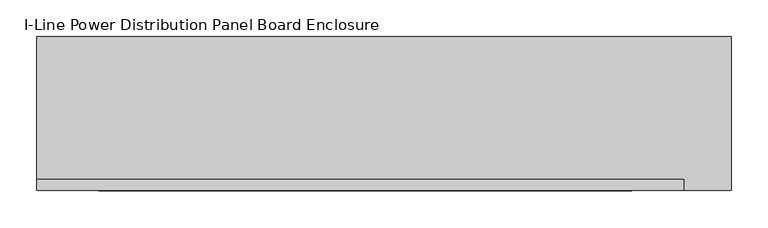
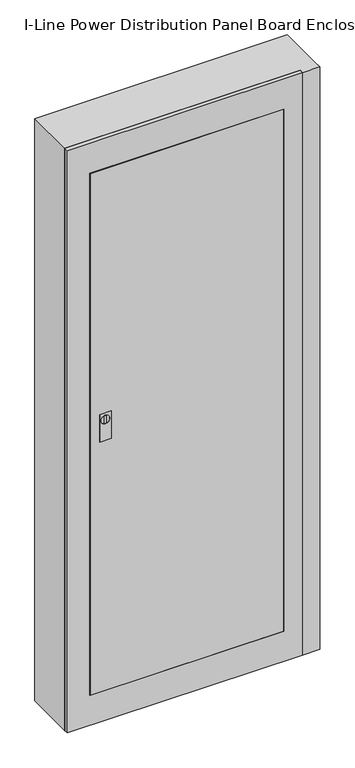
"""IFC4 building model written with IfcOpenShell, lengths in millimetres: proxy geometry, I-Line_Power_Distribution_Panel_Board_Enclosure_MDP-100_BIM_Model : I-Line Power Distribution Panel Board Enclosure."""

from ifc_helpers import new_model, si_unit, point, frame, frame_2d, origin, origin_with_axes, place, context, project, spatial, polyline, circle_curve, trimmed, segment, composite_curve, outline, extrude, source, transform, mapped, element, save


def i_line_power_distribution_panel_board_enclosure_bd4550be(model_context):
    return source(origin(), model_context, "Body", "SweptSolid", [
        extrude(outline(polyline([(29.9355959, 20.4466569), (29.9355959, -19.5533431), (-30.0644041, -19.5533431), (-30.0644041, 20.4466569), (29.9355959, 20.4466569)])), frame((0.0, 0.0, 2309.0), z_axis=(0.0, 0.0, 1.0), x_axis=(1.0, 0.0, 0.0)), (0.0, 0.0, 1.0), 1.0),
        extrude(outline(polyline([(1220.9933328, -309.120244), (1220.9933328, -353.1115289), (1112.0, -353.1115289), (1112.0, -309.120244), (1220.9933328, -309.120244)]), holes=[composite_curve([segment(trimmed(circle_curve(frame_2d((1194.7298791, -331.1240938)), 16.4146586), [point((1194.7298791, -347.5387523))], [point((1194.7298791, -314.7094352))], True, "CARTESIAN"), True, "CONTINUOUS"), segment(trimmed(circle_curve(frame_2d((1194.7298791, -331.1240938)), 16.4146586), [point((1194.7298791, -314.7094352))], [point((1194.7298791, -347.5387523))], True, "CARTESIAN"), True, "CONTINUOUS")], self_intersect=False)]), frame((0.0, -106.0, 0.0), z_axis=(0.0, 1.0, 0.0), x_axis=(0.0, 0.0, 1.0)), (0.0, 0.0, 1.0), 1.0),
        extrude(outline(composite_curve([segment(polyline([(1209.9614329, -335.0636118), (1179.4669633, -335.0636118)]), True, "CONTINUOUS"), segment(trimmed(circle_curve(frame_2d((1213.1619767, -331.1240938)), 33.9245299), [point((1179.4669633, -335.0636118))], [point((1179.4669633, -327.1845757))], False, "CARTESIAN"), True, "CONTINUOUS"), segment(polyline([(1179.4669633, -327.1845757), (1209.9614329, -327.1845757)]), True, "CONTINUOUS"), segment(trimmed(circle_curve(frame_2d((1194.1423953, -331.1240938)), 16.3022009), [point((1209.9614329, -327.1845757))], [point((1209.9614329, -335.0636118))], False, "CARTESIAN"), True, "CONTINUOUS")], self_intersect=False)), frame((0.0, -106.0, 0.0), z_axis=(0.0, 1.0, 0.0), x_axis=(0.0, 0.0, 1.0)), (0.0, 0.0, 1.0), 1.0),
        extrude(outline(polyline([(2311.0, 409.0), (2311.0, -474.0), (0.0, -474.0), (0.0, 409.0), (2311.0, 409.0)]), holes=[polyline([(2191.0, 338.0), (120.0, 338.0), (120.0, -389.0), (2191.0, -389.0), (2191.0, 338.0)])]), frame((0.0, -105.0, 0.0), z_axis=(0.0, 1.0, 0.0), x_axis=(0.0, 0.0, 1.0)), (0.0, 0.0, 1.0), 15.0),
        extrude(outline(polyline([(474.0, 105.0), (474.0, -80.0), (474.0, -105.0), (409.0, -105.0), (409.0, -90.0), (-474.0, -90.0), (-474.0, 105.0), (474.0, 105.0)])), origin_with_axes(), (0.0, 0.0, 1.0), 2311.0),
        extrude(outline(polyline([(338.0, -106.0), (-389.0, -106.0), (-389.0, -105.0), (338.0, -105.0), (338.0, -106.0)])), frame((0.0, 0.0, 120.0), z_axis=(0.0, 0.0, 1.0), x_axis=(1.0, 0.0, 0.0)), (0.0, 0.0, 1.0), 2071.0),
    ])


if __name__ == "__main__":
    model = new_model("IFC4")
    model_context = context("Model", 3, world=origin())
    ifc_project = project(units=[si_unit("LENGTHUNIT", "METRE", prefix="MILLI")], contexts=[model_context])
    site = spatial("IfcSite", under=ifc_project)
    building = spatial("IfcBuilding", under=site)
    placement = place(None, origin())
    i_line_power_distribution_panel_board_enclosure_shape = i_line_power_distribution_panel_board_enclosure_bd4550be(model_context)
    element("IfcBuildingElementProxy", 1, Name="I-Line_Power_Distribution_Panel_Board_Enclosure_MDP-100_BIM_Model : I-Line Power Distribution Panel Board Enclosure", ObjectType="I-Line_Power_Distribution_Panel_Board_Enclosure_MDP-100_BIM_Model : I-Line Power Distribution Panel Board Enclosure", at=placement, inside=building, context=model_context, shape_type="MappedRepresentation", body=[
        mapped(i_line_power_distribution_panel_board_enclosure_shape, transform((0.0, 0.0, 0.0), x_axis=(1.0, 0.0, 0.0), y_axis=(0.0, 1.0, 0.0), z_axis=(0.0, 0.0, 1.0))),
    ])
    save(model, "model.ifc")
